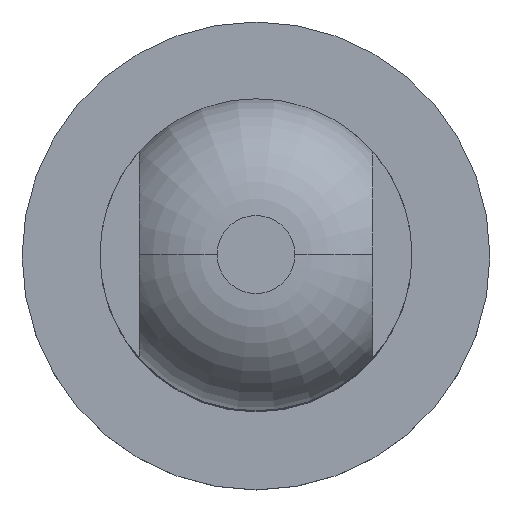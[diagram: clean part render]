
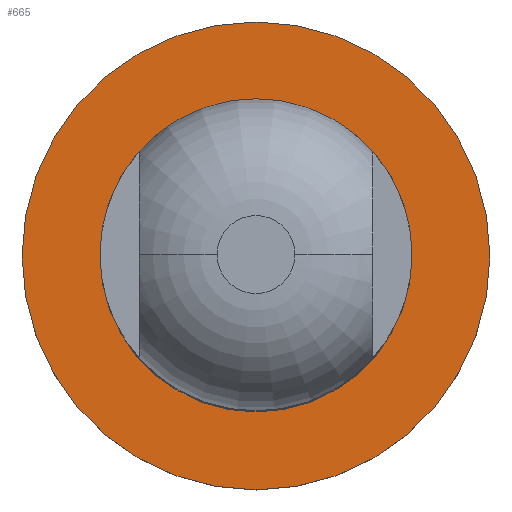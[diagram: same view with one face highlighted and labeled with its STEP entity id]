
A CAD part, top view. The second image highlights one B-rep face of the part: STEP entity #665.
In plain terms, the highlighted planar face has unit normal (0, 0, 1).
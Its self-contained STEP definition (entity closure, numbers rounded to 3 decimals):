
#42 = CARTESIAN_POINT ( 'NONE',  ( -6., 0., 1.5 ) ) ;
#49 = VERTEX_POINT ( 'NONE', #438 ) ;
#78 = DIRECTION ( 'NONE',  ( 1., 0., 0. ) ) ;
#110 = ORIENTED_EDGE ( 'NONE', *, *, #178, .T. ) ;
#118 = DIRECTION ( 'NONE',  ( 1., 0., 0. ) ) ;
#137 = AXIS2_PLACEMENT_3D ( 'NONE', #436, #500, #854 ) ;
#164 = DIRECTION ( 'NONE',  ( 1., 0., 0. ) ) ;
#178 = EDGE_CURVE ( 'NONE', #49, #745, #833, .T. ) ;
#204 = CIRCLE ( 'NONE', #714, 6. ) ;
#231 = PLANE ( 'NONE',  #137 ) ;
#278 = VERTEX_POINT ( 'NONE', #42 ) ;
#321 = ORIENTED_EDGE ( 'NONE', *, *, #439, .F. ) ;
#342 = CIRCLE ( 'NONE', #755, 6. ) ;
#386 = ORIENTED_EDGE ( 'NONE', *, *, #557, .T. ) ;
#398 = AXIS2_PLACEMENT_3D ( 'NONE', #507, #575, #717 ) ;
#427 = FACE_OUTER_BOUND ( 'NONE', #594, .T. ) ;
#436 = CARTESIAN_POINT ( 'NONE',  ( 0., -6., 1.5 ) ) ;
#438 = CARTESIAN_POINT ( 'NONE',  ( -4., 0., 1.5 ) ) ;
#439 = EDGE_CURVE ( 'NONE', #880, #278, #204, .T. ) ;
#449 = ORIENTED_EDGE ( 'NONE', *, *, #638, .F. ) ;
#485 = CARTESIAN_POINT ( 'NONE',  ( 0., 0., 1.5 ) ) ;
#500 = DIRECTION ( 'NONE',  ( 0., 0., -1. ) ) ;
#507 = CARTESIAN_POINT ( 'NONE',  ( 0., 0., 1.5 ) ) ;
#528 = EDGE_LOOP ( 'NONE', ( #386, #110 ) ) ;
#557 = EDGE_CURVE ( 'NONE', #745, #49, #571, .T. ) ;
#571 = CIRCLE ( 'NONE', #690, 4. ) ;
#575 = DIRECTION ( 'NONE',  ( 0., 0., -1. ) ) ;
#594 = EDGE_LOOP ( 'NONE', ( #321, #449 ) ) ;
#638 = EDGE_CURVE ( 'NONE', #278, #880, #342, .T. ) ;
#640 = CARTESIAN_POINT ( 'NONE',  ( 0., 0., 1.5 ) ) ;
#665 = ADVANCED_FACE ( 'NONE', ( #427, #708 ), #231, .F. ) ;
#690 = AXIS2_PLACEMENT_3D ( 'NONE', #485, #836, #78 ) ;
#692 = CARTESIAN_POINT ( 'NONE',  ( 6., 0., 1.5 ) ) ;
#708 = FACE_BOUND ( 'NONE', #528, .T. ) ;
#714 = AXIS2_PLACEMENT_3D ( 'NONE', #892, #740, #118 ) ;
#717 = DIRECTION ( 'NONE',  ( 1., 0., 0. ) ) ;
#722 = CARTESIAN_POINT ( 'NONE',  ( 4., 0., 1.5 ) ) ;
#740 = DIRECTION ( 'NONE',  ( 0., 0., -1. ) ) ;
#745 = VERTEX_POINT ( 'NONE', #722 ) ;
#755 = AXIS2_PLACEMENT_3D ( 'NONE', #640, #771, #164 ) ;
#771 = DIRECTION ( 'NONE',  ( 0., 0., -1. ) ) ;
#833 = CIRCLE ( 'NONE', #398, 4. ) ;
#836 = DIRECTION ( 'NONE',  ( 0., 0., -1. ) ) ;
#854 = DIRECTION ( 'NONE',  ( 1., 0., 0. ) ) ;
#880 = VERTEX_POINT ( 'NONE', #692 ) ;
#892 = CARTESIAN_POINT ( 'NONE',  ( 0., 0., 1.5 ) ) ;
